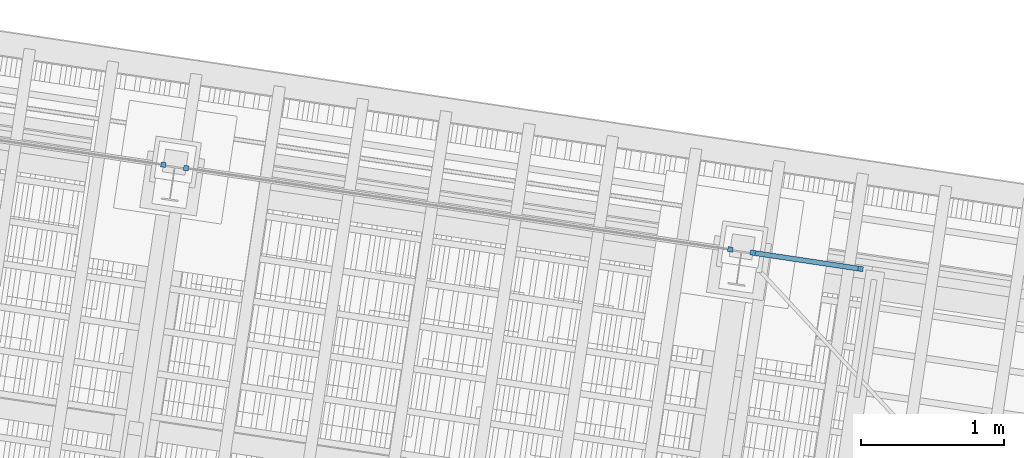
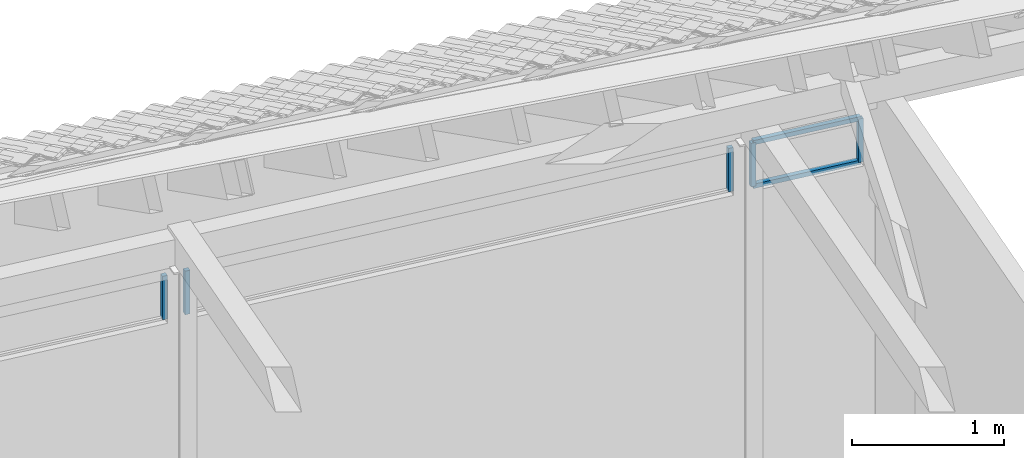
# One storey, part 119 of 131: 7 members.
"""IFC4 building model written with IfcOpenShell, lengths in metres."""

from ifc_helpers import new_model, si_unit, direction, frame, origin_with_axes, place, context, subcontext, project, spatial, rectangle, extrude, material, material_profile, profile_set, profile_usage, type_object, element, save


model = new_model("IFC4")

# Units and contexts
model_context = context("Model", 3, precision=1e-05, world=origin_with_axes(), true_north=direction((0.0, 1.0)))
body_context = subcontext(model_context, "Body", "Model", "MODEL_VIEW")
ifc_project = project(units=[si_unit("VOLUMEUNIT", "CUBIC_METRE"), si_unit("LENGTHUNIT", "METRE"), si_unit("AREAUNIT", "SQUARE_METRE")], contexts=[model_context])

# Site, building, storey
site_placement = place(None, origin_with_axes())
site = spatial("IfcSite", under=ifc_project, at=site_placement, Name="Lares · Rua das Mercês · artigo 4771")
building_placement = place(site_placement, frame((15.0, 9.7, 14.65), z_axis=(0.0, 0.0, 1.0), x_axis=(0.989015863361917, -0.147809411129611, 0.0)))
building = spatial("IfcBuilding", under=site, at=building_placement, Name="Casa Sobreposta")
storey_placement = place(building_placement, origin_with_axes())
storey = spatial("IfcBuildingStorey", under=building, at=storey_placement, Name="00 · Habitação e estacionamento", Elevation=14.65)

# Members
ifc_material = material(Name="Aço pintado / Stahl lackiert", Category="steel")
ifc_material_profile = material_profile(ifc_material, rectangle(XDim=0.035, YDim=0.035))
ifc_profile_set = profile_set([ifc_material_profile], Name="R0.035")
ifc_profile_usage_1 = profile_usage(ifc_profile_set)
member_type = type_object("IfcMemberType", Name="R0.035 / steel", PredefinedType="NOTDEFINED", material=ifc_profile_set)
member_1_placement = place(storey_placement, frame((19.92, 6.4, 2.35), z_axis=(0.0, 0.0, 1.0), x_axis=(1.0, 0.0, 0.0)))
element("IfcMember", 1, at=member_1_placement, inside=storey, type_object=member_type, material=ifc_profile_usage_1, Name="Rasgo norte 5 · montante", context=body_context, shape_type="SweptSolid", body=[
    extrude(rectangle(XDim=0.035, YDim=0.035), origin_with_axes(), (0.0, 0.0, 1.0), 0.35),
])
ifc_profile_usage_2 = profile_usage(ifc_profile_set)
member_2_placement = place(storey_placement, frame((20.08, 6.4, 2.35), z_axis=(0.0, 0.0, 1.0), x_axis=(1.0, 0.0, 0.0)))
element("IfcMember", 2, at=member_2_placement, inside=storey, type_object=member_type, material=ifc_profile_usage_2, Name="Rasgo norte 6 · montante", context=body_context, shape_type="SweptSolid", body=[
    extrude(rectangle(XDim=0.035, YDim=0.035), origin_with_axes(), (0.0, 0.0, 1.0), 0.35),
])
ifc_profile_usage_3 = profile_usage(ifc_profile_set)
member_3_placement = place(storey_placement, frame((23.92, 6.4, 2.35), z_axis=(0.0, 0.0, 1.0), x_axis=(1.0, 0.0, 0.0)))
element("IfcMember", 3, at=member_3_placement, inside=storey, type_object=member_type, material=ifc_profile_usage_3, Name="Rasgo norte 6 · montante", context=body_context, shape_type="SweptSolid", body=[
    extrude(rectangle(XDim=0.035, YDim=0.035), origin_with_axes(), (0.0, 0.0, 1.0), 0.35),
])
ifc_profile_usage_4 = profile_usage(ifc_profile_set)
member_4_placement = place(storey_placement, frame((24.08, 6.4, 2.35), z_axis=(0.0, 0.0, 1.0), x_axis=(1.0, 0.0, 0.0)))
element("IfcMember", 4, at=member_4_placement, inside=storey, type_object=member_type, material=ifc_profile_usage_4, Name="Rasgo norte 7 · montante", context=body_context, shape_type="SweptSolid", body=[
    extrude(rectangle(XDim=0.035, YDim=0.035), origin_with_axes(), (0.0, 0.0, 1.0), 0.35),
])
ifc_profile_usage_5 = profile_usage(ifc_profile_set)
member_5_placement = place(storey_placement, frame((24.84, 6.4, 2.35), z_axis=(0.0, 0.0, 1.0), x_axis=(1.0, 0.0, 0.0)))
element("IfcMember", 5, at=member_5_placement, inside=storey, type_object=member_type, material=ifc_profile_usage_5, Name="Rasgo norte 7 · montante", context=body_context, shape_type="SweptSolid", body=[
    extrude(rectangle(XDim=0.035, YDim=0.035), origin_with_axes(), (0.0, 0.0, 1.0), 0.35),
])
ifc_profile_usage_6 = profile_usage(ifc_profile_set)
member_6_placement = place(storey_placement, frame((24.08, 6.4, 2.35), z_axis=(1.0, 0.0, 0.0), x_axis=(0.0, -1.0, 0.0)))
element("IfcMember", 6, at=member_6_placement, inside=storey, type_object=member_type, material=ifc_profile_usage_6, Name="Rasgo norte 7 · travessa", context=body_context, shape_type="SweptSolid", body=[
    extrude(rectangle(XDim=0.035, YDim=0.035), origin_with_axes(), (0.0, 0.0, 1.0), 0.760000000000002),
])
ifc_profile_usage_7 = profile_usage(ifc_profile_set)
member_7_placement = place(storey_placement, frame((24.08, 6.4, 2.7), z_axis=(1.0, 0.0, 0.0), x_axis=(0.0, -1.0, 0.0)))
element("IfcMember", 7, at=member_7_placement, inside=storey, type_object=member_type, material=ifc_profile_usage_7, Name="Rasgo norte 7 · travessa", context=body_context, shape_type="SweptSolid", body=[
    extrude(rectangle(XDim=0.035, YDim=0.035), origin_with_axes(), (0.0, 0.0, 1.0), 0.760000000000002),
])

save(model, "model.ifc")
